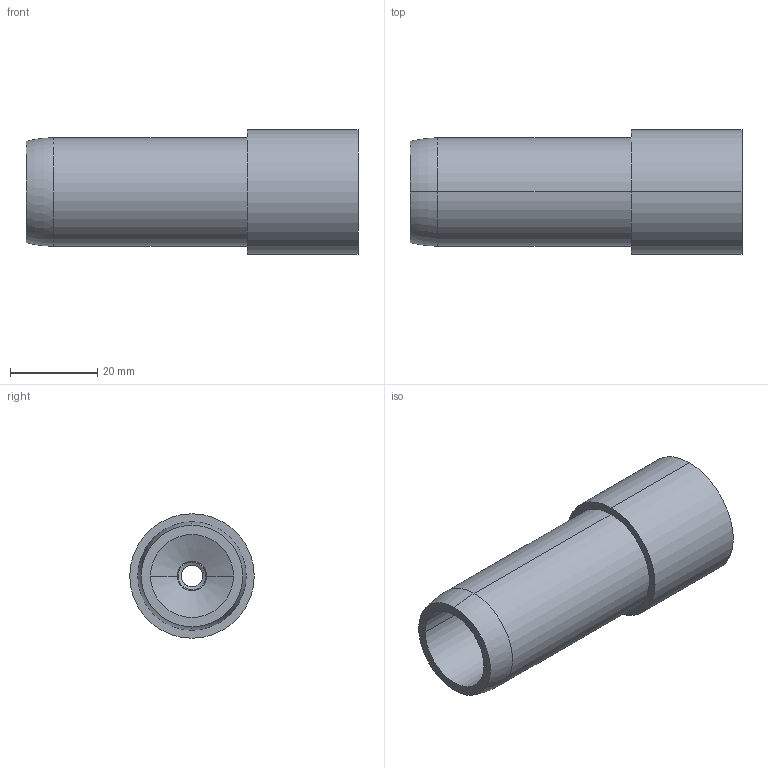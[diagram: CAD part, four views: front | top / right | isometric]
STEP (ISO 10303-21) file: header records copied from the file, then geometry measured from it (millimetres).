
FILE_DESCRIPTION (( 'STEP AP214' ), '1' );
FILE_NAME ('DRP-002-0513-00.STEP', '2013-12-20T16:50:21', ( 'ydmin' ), ( 'Microsoft' ), 'SwSTEP 2.0', 'SolidWorks 2013', '' );
FILE_SCHEMA (( 'AUTOMOTIVE_DESIGN' ));
Length unit declared in the file: inch
Products named in the file (1): DRP-002-0513-00
Bounding box: 76.2 x 28.57 x 28.57 mm (x, y, z)
Volume: 25056.8 mm3; surface area: 11823.1 mm2
Topology: 2 solids, 2 shells, 25 faces, 56 edges, 36 vertices
Faces by surface type: bspline 8, cylinder 8, plane 5, torus 2, cone 2
Entity records: 4462 total; most frequent: CARTESIAN_POINT 3582, ORIENTED_EDGE 112, DIRECTION 106, EDGE_CURVE 56, AXIS2_PLACEMENT_3D 40, VERTEX_POINT 36, EDGE_LOOP 28, DIMENSIONAL_EXPONENTS 27
